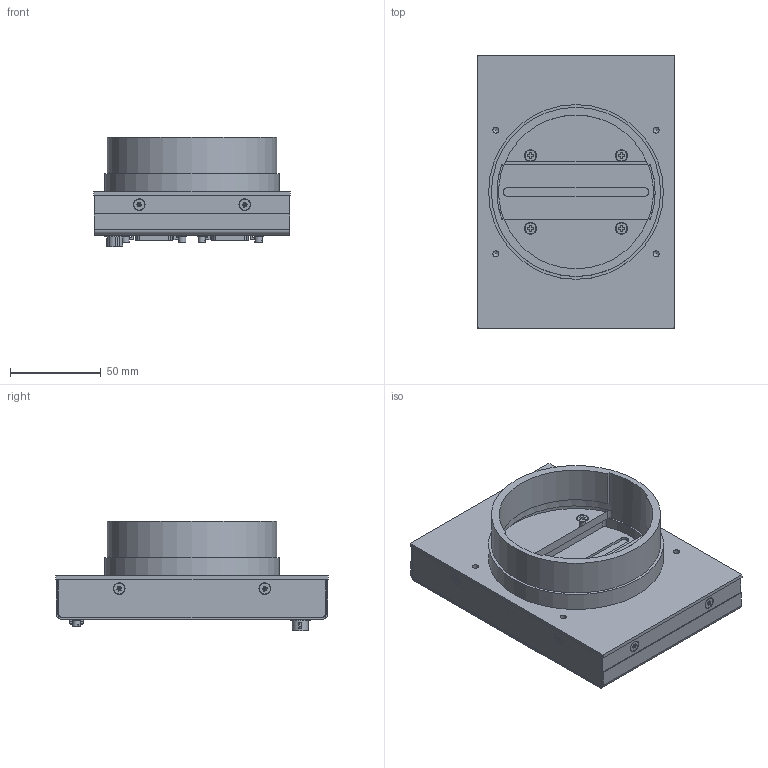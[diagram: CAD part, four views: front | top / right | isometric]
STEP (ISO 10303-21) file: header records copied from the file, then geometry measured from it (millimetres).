
FILE_DESCRIPTION (( 'STEP AP214' ), '1' );
FILE_NAME ('C7-5027-00-44／Line Scan Camera_NUCLi7370AT6組立図.STEP', '2019-03-22T04:24:31', ( '' ), ( '' ), 'SwSTEP 2.0', 'SolidWorks 2016', '' );
FILE_SCHEMA (( 'AUTOMOTIVE_DESIGN' ));
Length unit declared in the file: millimetre
Products named in the file (21): Part14^NUCLi7370AT6用基板_PCB-NUCLi7370AT6M5#F-NUCLi7370AT6; C4-1082-01-41／背面カバー; C5-5060-00-44_6／コネクタ_HR10G-7R-6P; C5-5016-00-40_06／座付きなべ頭小ねじ（P=4) M3X06 SUS_CSPPNZP-SUS-M3-6; C5-5135-00-43／発光ダイオード(緑)_SLR-332MG-3F; C5-5021-00-40_10／サラネジ M3X10 SUS_SFBJ3-10; C5-5152-00-43／コネクタロック用ネジ_3341-31J; NUCLi7370AT6用基板_PCB-NUCLi7370AT6M5#F-NUCLi7370AT6; C5-5091-00-43_4／コネクタ_DF11-4DP-2DS; C4-1081-01-41／フロントパネル; C5-5059-00-44_8乛诉輥E蛔6-厶尬拶腳M3X8(SUS); ナット^C5-5060-00-44_6／コネクタ_HR10G-7R-6P; C4-1036-00-29／固定鏡筒_NUCL7KCL-FT; C5-5202-00-43_4／LED用スペーサー_LL-4; 座金^C5-5060-00-44_6／コネクタ_HR10G-7R-6P; Part5^C5-5060-00-44_6／コネクタ_HR10G-7R-6P; C5-5091-00-43_10／コネクタ_DF11-10DP-2DS; C5-5014-00-44_04／六角スペーサー_SQ-4; C5-5146-00-43／コネクタ_10226-6212-PL; C7-5027-00-44／Line Scan Camera_NUCLi7370AT6組立図; C4-1084-00-41／側面パネル
Assembly tree (41 placements, depth 3):
  C7-5027-00-44／Line Scan Camera_NUCLi7370AT6組立図
    C4-1081-01-41／フロントパネル
    C4-1084-00-41／側面パネル  x2
    C4-1082-01-41／背面カバー
    C4-1036-00-29／固定鏡筒_NUCL7KCL-FT
    NUCLi7370AT6用基板_PCB-NUCLi7370AT6M5#F-NUCLi7370AT6
      Part14^NUCLi7370AT6用基板_PCB-NUCLi7370AT6M5#F-NUCLi7370AT6
      C5-5135-00-43／発光ダイオード(緑)_SLR-332MG-3F
      C5-5091-00-43_4／コネクタ_DF11-4DP-2DS
      C5-5091-00-43_10／コネクタ_DF11-10DP-2DS
      C5-5146-00-43／コネクタ_10226-6212-PL  x2
      C5-5202-00-43_4／LED用スペーサー_LL-4
    C5-5060-00-44_6／コネクタ_HR10G-7R-6P
      Part5^C5-5060-00-44_6／コネクタ_HR10G-7R-6P
      ナット^C5-5060-00-44_6／コネクタ_HR10G-7R-6P
      座金^C5-5060-00-44_6／コネクタ_HR10G-7R-6P
    C5-5152-00-43／コネクタロック用ネジ_3341-31J  x4
    C5-5021-00-40_10／サラネジ M3X10 SUS_SFBJ3-10  x4
    C5-5059-00-44_8乛诉輥E蛔6-厶尬拶腳M3X8(SUS)  x8
    C5-5016-00-40_06／座付きなべ頭小ねじ（P=4) M3X06 SUS_CSPPNZP-SUS-M3-6  x4
    C5-5014-00-44_04／六角スペーサー_SQ-4  x4
Bounding box: 108 x 150 x 60.1 mm (x, y, z)
Volume: 254123.6 mm3; surface area: 162599.1 mm2
Topology: 41 solids, 43 shells, 7644 faces, 20671 edges, 13677 vertices
Faces by surface type: plane 3951, bspline 3063, cylinder 507, cone 114, sphere 5, torus 4
Full cylindrical faces by diameter (mm): 0.19 x1, 0.4 x2, 0.5 x6, 0.8 x8, 1 x8, 1.1 x6, 2.05 x8, 2.261 x8, 2.5 x24, 2.6 x4, 3 x20, 3.2 x14, 3.3 x4, 4 x1, 4.1 x4, 4.2 x4, 4.8 x4, 5.2 x1, 5.5 x4, 5.6 x4, 5.7 x1, 6 x8, 6.6 x1, 8 x2, 8.85 x1, 10 x2, 11 x2, 15 x1, 87 x1, 93 x1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
Entity records: 367509 total; most frequent: CARTESIAN_POINT 150157, ORIENTED_EDGE 37592, DIRECTION 21071, EDGE_CURVE 18796, VERTEX_POINT 12520, VECTOR 11763, LINE 11763, EDGE_LOOP 7714
